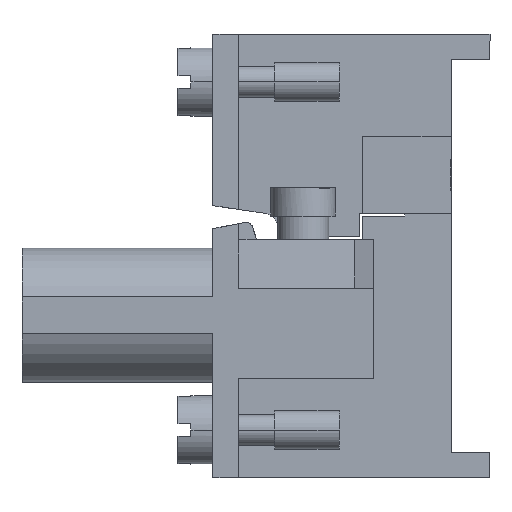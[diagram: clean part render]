
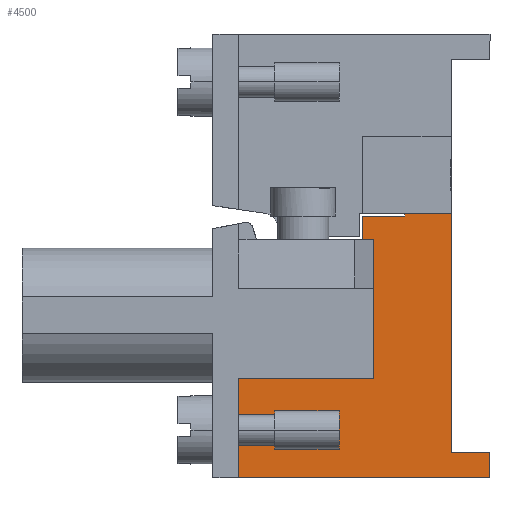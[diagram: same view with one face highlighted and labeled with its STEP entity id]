
A CAD part, left-side view. The second image highlights one B-rep face of the part: STEP entity #4500.
In plain terms, the highlighted planar face has unit normal (-1, 0, 0).
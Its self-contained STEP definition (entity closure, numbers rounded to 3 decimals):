
#23 = VERTEX_POINT ( 'NONE', #2082 ) ;
#28 = VERTEX_POINT ( 'NONE', #9593 ) ;
#101 = CARTESIAN_POINT ( 'NONE',  ( -23.7, -25.6, 17.2 ) ) ;
#140 = CARTESIAN_POINT ( 'NONE',  ( -23.7, -31.6, -15.25 ) ) ;
#343 = EDGE_CURVE ( 'NONE', #10124, #3260, #9791, .T. ) ;
#476 = CARTESIAN_POINT ( 'NONE',  ( -23.7, -15.1, 17.2 ) ) ;
#486 = ORIENTED_EDGE ( 'NONE', *, *, #6652, .F. ) ;
#551 = EDGE_CURVE ( 'NONE', #10355, #28, #1607, .T. ) ;
#802 = CARTESIAN_POINT ( 'NONE',  ( -23.7, 45.467, 3.1 ) ) ;
#886 = VERTEX_POINT ( 'NONE', #8672 ) ;
#962 = CARTESIAN_POINT ( 'NONE',  ( -23.7, -34.6, -15.25 ) ) ;
#1107 = VERTEX_POINT ( 'NONE', #4850 ) ;
#1112 = ORIENTED_EDGE ( 'NONE', *, *, #551, .T. ) ;
#1417 = FACE_OUTER_BOUND ( 'NONE', #7215, .T. ) ;
#1607 = LINE ( 'NONE', #1766, #3953 ) ;
#1677 = DIRECTION ( 'NONE',  ( 0., 0., 1. ) ) ;
#1766 = CARTESIAN_POINT ( 'NONE',  ( -23.7, 45.467, -17.2 ) ) ;
#1892 = ORIENTED_EDGE ( 'NONE', *, *, #343, .T. ) ;
#2082 = CARTESIAN_POINT ( 'NONE',  ( -23.7, -24.7, 3.1 ) ) ;
#2115 = VECTOR ( 'NONE', #6312, 1000. ) ;
#2229 = VECTOR ( 'NONE', #8748, 1000. ) ;
#2419 = EDGE_CURVE ( 'NONE', #4671, #2865, #3680, .T. ) ;
#2432 = AXIS2_PLACEMENT_3D ( 'NONE', #3988, #4017, #9808 ) ;
#2522 = VECTOR ( 'NONE', #1677, 1000. ) ;
#2865 = VERTEX_POINT ( 'NONE', #5922 ) ;
#2945 = VERTEX_POINT ( 'NONE', #962 ) ;
#3000 = DIRECTION ( 'NONE',  ( 0., 0., 1. ) ) ;
#3065 = VECTOR ( 'NONE', #3122, 1000. ) ;
#3122 = DIRECTION ( 'NONE',  ( 0., 0., -1. ) ) ;
#3139 = ORIENTED_EDGE ( 'NONE', *, *, #9844, .F. ) ;
#3161 = DIRECTION ( 'NONE',  ( 0., 1., 0. ) ) ;
#3188 = ORIENTED_EDGE ( 'NONE', *, *, #8647, .T. ) ;
#3199 = CARTESIAN_POINT ( 'NONE',  ( -23.7, -25.6, 1.3 ) ) ;
#3260 = VERTEX_POINT ( 'NONE', #3960 ) ;
#3680 = LINE ( 'NONE', #7104, #2115 ) ;
#3711 = VECTOR ( 'NONE', #3161, 1000. ) ;
#3881 = EDGE_CURVE ( 'NONE', #5861, #23, #6366, .T. ) ;
#3900 = VECTOR ( 'NONE', #5614, 1000. ) ;
#3953 = VECTOR ( 'NONE', #5076, 1000. ) ;
#3960 = CARTESIAN_POINT ( 'NONE',  ( -23.7, -31.6, 3.3 ) ) ;
#3988 = CARTESIAN_POINT ( 'NONE',  ( -23.7, 45.467, 17.2 ) ) ;
#3992 = ORIENTED_EDGE ( 'NONE', *, *, #6589, .F. ) ;
#4017 = DIRECTION ( 'NONE',  ( 1., 0., 0. ) ) ;
#4184 = DIRECTION ( 'NONE',  ( 0., 0., -1. ) ) ;
#4442 = LINE ( 'NONE', #476, #2229 ) ;
#4500 = ADVANCED_FACE ( 'NONE', ( #1417 ), #8964, .F. ) ;
#4624 = LINE ( 'NONE', #4918, #3711 ) ;
#4671 = VERTEX_POINT ( 'NONE', #3199 ) ;
#4850 = CARTESIAN_POINT ( 'NONE',  ( -23.7, -25.6, -9.5 ) ) ;
#4918 = CARTESIAN_POINT ( 'NONE',  ( -23.7, 45.467, -15.25 ) ) ;
#4924 = VECTOR ( 'NONE', #7031, 1000. ) ;
#4978 = DIRECTION ( 'NONE',  ( 0., 0., 1. ) ) ;
#5076 = DIRECTION ( 'NONE',  ( 0., -1., 0. ) ) ;
#5094 = CARTESIAN_POINT ( 'NONE',  ( -23.7, -28., 17.2 ) ) ;
#5153 = EDGE_CURVE ( 'NONE', #8935, #1107, #5435, .T. ) ;
#5352 = VECTOR ( 'NONE', #7122, 1000. ) ;
#5435 = LINE ( 'NONE', #7063, #4924 ) ;
#5505 = CARTESIAN_POINT ( 'NONE',  ( -23.7, -34.6, 17.2 ) ) ;
#5546 = VECTOR ( 'NONE', #9285, 1000. ) ;
#5611 = LINE ( 'NONE', #10426, #5352 ) ;
#5614 = DIRECTION ( 'NONE',  ( 0., 1., 0. ) ) ;
#5734 = CARTESIAN_POINT ( 'NONE',  ( -23.7, -24.7, 17.2 ) ) ;
#5789 = ORIENTED_EDGE ( 'NONE', *, *, #9582, .T. ) ;
#5861 = VERTEX_POINT ( 'NONE', #6537 ) ;
#5922 = CARTESIAN_POINT ( 'NONE',  ( -23.7, -24.7, 1.3 ) ) ;
#6043 = VECTOR ( 'NONE', #3000, 1000. ) ;
#6251 = VERTEX_POINT ( 'NONE', #8283 ) ;
#6301 = LINE ( 'NONE', #101, #7853 ) ;
#6312 = DIRECTION ( 'NONE',  ( 0., 1., 0. ) ) ;
#6360 = CARTESIAN_POINT ( 'NONE',  ( -23.7, -15.1, -17.2 ) ) ;
#6366 = LINE ( 'NONE', #802, #3900 ) ;
#6537 = CARTESIAN_POINT ( 'NONE',  ( -23.7, -28., 3.1 ) ) ;
#6589 = EDGE_CURVE ( 'NONE', #10355, #8935, #4442, .T. ) ;
#6652 = EDGE_CURVE ( 'NONE', #886, #3260, #5611, .T. ) ;
#6758 = CARTESIAN_POINT ( 'NONE',  ( -23.7, -31.6, 17.2 ) ) ;
#7031 = DIRECTION ( 'NONE',  ( 0., -1., 0. ) ) ;
#7063 = CARTESIAN_POINT ( 'NONE',  ( -23.7, 45.467, -9.5 ) ) ;
#7104 = CARTESIAN_POINT ( 'NONE',  ( -23.7, 45.467, 1.3 ) ) ;
#7122 = DIRECTION ( 'NONE',  ( 0., -1., 0. ) ) ;
#7215 = EDGE_LOOP ( 'NONE', ( #9923, #9205, #3139, #9529, #3992, #1112, #9668, #5789, #1892, #486, #8161, #7774, #3188 ) ) ;
#7412 = EDGE_CURVE ( 'NONE', #886, #5861, #9951, .T. ) ;
#7430 = EDGE_CURVE ( 'NONE', #6251, #4671, #7748, .T. ) ;
#7457 = LINE ( 'NONE', #5734, #3065 ) ;
#7491 = CARTESIAN_POINT ( 'NONE',  ( -23.7, -25.6, 17.2 ) ) ;
#7748 = LINE ( 'NONE', #7491, #5546 ) ;
#7774 = ORIENTED_EDGE ( 'NONE', *, *, #3881, .T. ) ;
#7853 = VECTOR ( 'NONE', #4978, 1000. ) ;
#8161 = ORIENTED_EDGE ( 'NONE', *, *, #7412, .T. ) ;
#8283 = CARTESIAN_POINT ( 'NONE',  ( -23.7, -25.6, -4.6 ) ) ;
#8647 = EDGE_CURVE ( 'NONE', #23, #2865, #7457, .T. ) ;
#8672 = CARTESIAN_POINT ( 'NONE',  ( -23.7, -28., 3.3 ) ) ;
#8748 = DIRECTION ( 'NONE',  ( 0., 0., 1. ) ) ;
#8935 = VERTEX_POINT ( 'NONE', #10176 ) ;
#8964 = PLANE ( 'NONE',  #2432 ) ;
#9205 = ORIENTED_EDGE ( 'NONE', *, *, #7430, .F. ) ;
#9212 = EDGE_CURVE ( 'NONE', #28, #2945, #9807, .T. ) ;
#9285 = DIRECTION ( 'NONE',  ( 0., 0., 1. ) ) ;
#9529 = ORIENTED_EDGE ( 'NONE', *, *, #5153, .F. ) ;
#9582 = EDGE_CURVE ( 'NONE', #2945, #10124, #4624, .T. ) ;
#9593 = CARTESIAN_POINT ( 'NONE',  ( -23.7, -34.6, -17.2 ) ) ;
#9668 = ORIENTED_EDGE ( 'NONE', *, *, #9212, .T. ) ;
#9791 = LINE ( 'NONE', #6758, #2522 ) ;
#9807 = LINE ( 'NONE', #5505, #6043 ) ;
#9808 = DIRECTION ( 'NONE',  ( 0., 0., -1. ) ) ;
#9844 = EDGE_CURVE ( 'NONE', #1107, #6251, #6301, .T. ) ;
#9923 = ORIENTED_EDGE ( 'NONE', *, *, #2419, .F. ) ;
#9951 = LINE ( 'NONE', #5094, #10333 ) ;
#10124 = VERTEX_POINT ( 'NONE', #140 ) ;
#10176 = CARTESIAN_POINT ( 'NONE',  ( -23.7, -15.1, -9.5 ) ) ;
#10333 = VECTOR ( 'NONE', #4184, 1000. ) ;
#10355 = VERTEX_POINT ( 'NONE', #6360 ) ;
#10426 = CARTESIAN_POINT ( 'NONE',  ( -23.7, -24.7, 3.3 ) ) ;
